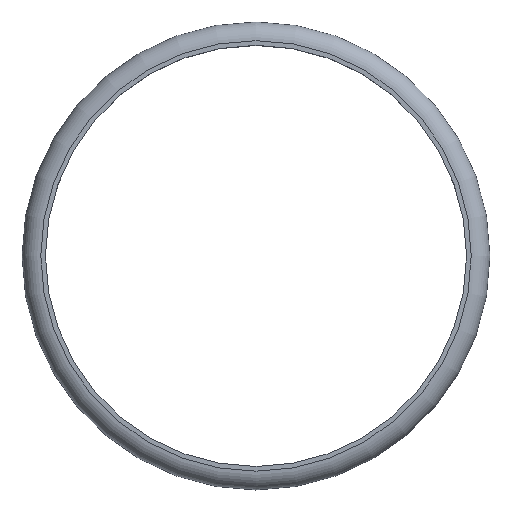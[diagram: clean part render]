
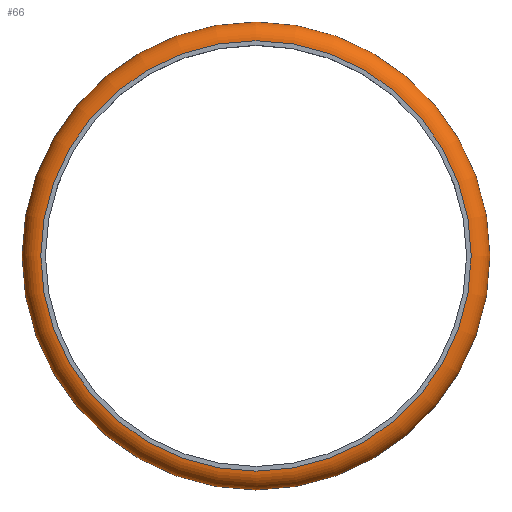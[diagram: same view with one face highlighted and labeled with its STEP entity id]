
A CAD part, top view. The second image highlights one B-rep face of the part: STEP entity #66.
In plain terms, the highlighted toroidal (fillet/blend) face has major radius 23 mm and minor radius 2 mm.
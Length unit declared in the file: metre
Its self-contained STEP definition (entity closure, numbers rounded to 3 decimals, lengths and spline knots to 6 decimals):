
#12=TOROIDAL_SURFACE('',#89,0.023,0.002);
#23=ORIENTED_EDGE('',*,*,#27,.F.);
#24=ORIENTED_EDGE('',*,*,#29,.F.);
#27=EDGE_CURVE('',#32,#32,#37,.F.);
#29=EDGE_CURVE('',#34,#34,#39,.T.);
#32=VERTEX_POINT('',#120);
#34=VERTEX_POINT('',#125);
#37=CIRCLE('',#84,0.025);
#39=CIRCLE('',#87,0.023);
#48=EDGE_LOOP('',(#23));
#49=EDGE_LOOP('',(#24));
#58=FACE_BOUND('',#48,.T.);
#59=FACE_BOUND('',#49,.T.);
#66=ADVANCED_FACE('',(#58,#59),#12,.T.);
#84=AXIS2_PLACEMENT_3D('',#119,#100,#101);
#87=AXIS2_PLACEMENT_3D('',#124,#106,#107);
#89=AXIS2_PLACEMENT_3D('',#127,#110,#111);
#100=DIRECTION('',(0.,0.,1.));
#101=DIRECTION('',(1.,0.,0.));
#106=DIRECTION('',(0.,0.,1.));
#107=DIRECTION('',(1.,0.,0.));
#110=DIRECTION('',(0.,0.,1.));
#111=DIRECTION('',(1.,0.,0.));
#119=CARTESIAN_POINT('',(-0.679944,-0.039387,0.006));
#120=CARTESIAN_POINT('',(-0.654944,-0.039387,0.006));
#124=CARTESIAN_POINT('',(-0.679944,-0.039387,0.008));
#125=CARTESIAN_POINT('',(-0.656944,-0.039387,0.008));
#127=CARTESIAN_POINT('',(-0.679944,-0.039387,0.006));
